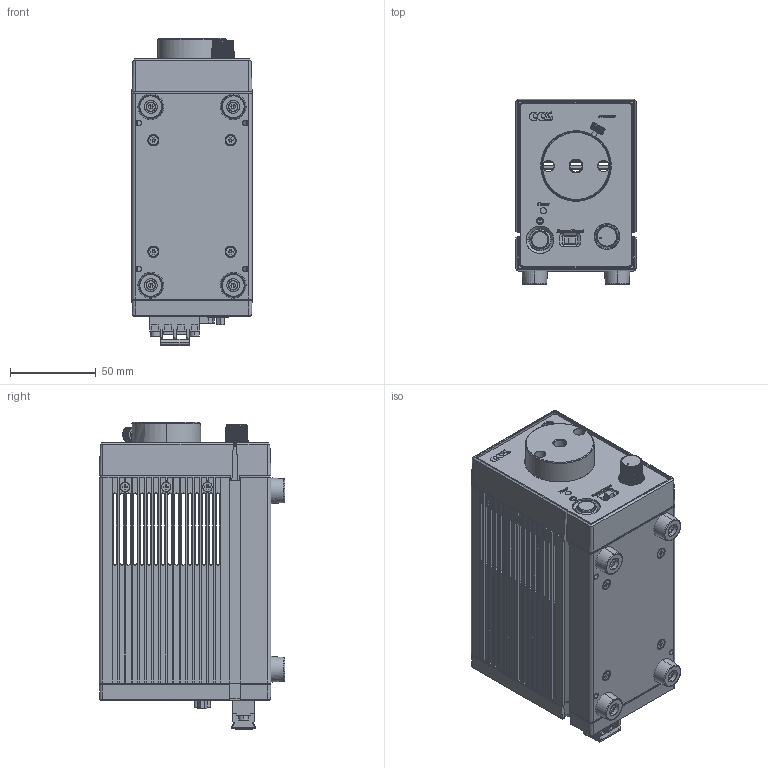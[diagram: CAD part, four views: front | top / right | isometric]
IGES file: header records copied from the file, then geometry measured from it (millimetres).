
Start section: SolidWorks IGES file using NURBS representation for surfaces
Bounding box: 70 x 108 x 178.92 mm (x, y, z)
Surface area: 136688.6 mm2 (no closed solid volume)
Topology: 0 solids, 0 shells, 1756 faces, 22861 edges, 22807 vertices
Faces by surface type: bspline 1756
